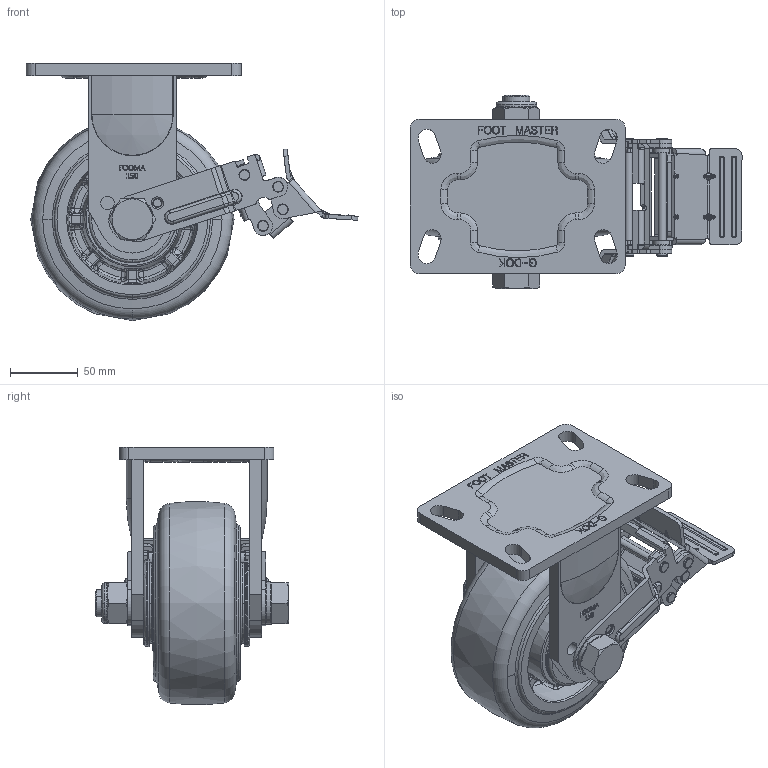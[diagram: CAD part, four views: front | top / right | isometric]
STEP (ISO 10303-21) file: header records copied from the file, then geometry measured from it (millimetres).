
FILE_DESCRIPTION((''),'2;1');
FILE_NAME('GF-150B-RF-MUD.stp','2012-06-07T19:52:20',(''),(''),'Mechanical Desktop 2009','Mechanical Desktop 2009',', , ');
FILE_SCHEMA(('CONFIG_CONTROL_DESIGN'));
Length unit declared in the file: millimetre
Products named in the file (2): GF-150B-RF-MUD; GF-RF-PLATE
Assembly tree (1 placements, depth 2):
  GF-150B-RF-MUD
    GF-RF-PLATE
Bounding box: 244.98 x 143 x 189.84 mm (x, y, z)
Volume: 1352456.5 mm3; surface area: 227648.7 mm2
Topology: 7 solids, 7 shells, 2376 faces, 6329 edges, 3906 vertices
Faces by surface type: bspline 1067, plane 638, cylinder 523, torus 94, cone 50, sphere 4
Entity records: 113234 total; most frequent: CARTESIAN_POINT 60235, ORIENTED_EDGE 12452, DIRECTION 9078, EDGE_CURVE 6226, VERTEX_POINT 3906, AXIS2_PLACEMENT_3D 3287, EDGE_LOOP 2514, VECTOR 2504
